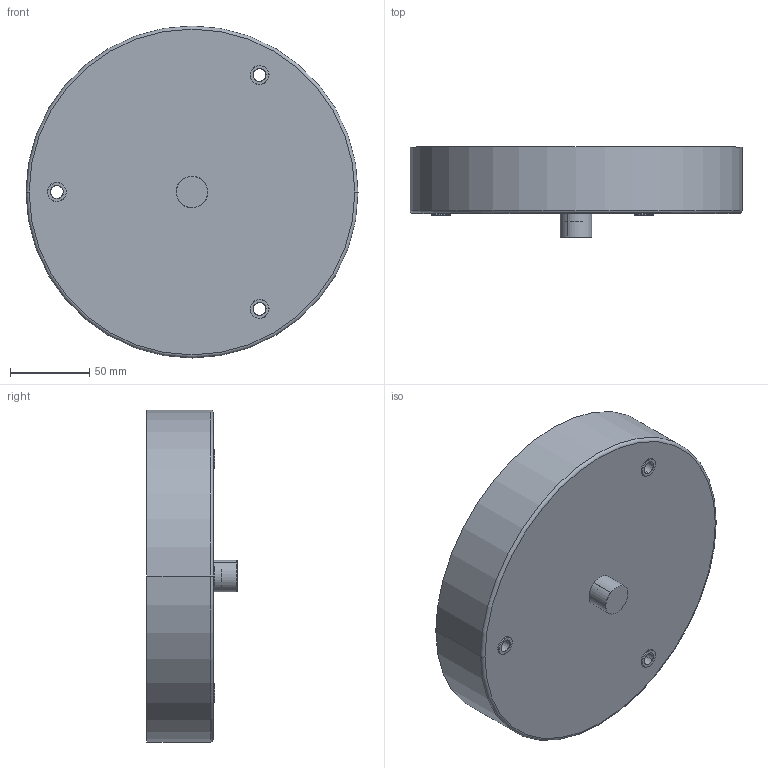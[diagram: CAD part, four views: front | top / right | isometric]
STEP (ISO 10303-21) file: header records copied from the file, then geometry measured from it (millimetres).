
FILE_DESCRIPTION (( 'STEP AP203' ), '1' );
FILE_NAME ('ACCANOPYTO003XX REV.01-PER 3D.STEP', '2026-07-08T08:40:11', ( '' ), ( '' ), 'SwSTEP 2.0', 'SolidWorks 2026', '' );
FILE_SCHEMA (( 'CONFIG_CONTROL_DESIGN' ));
Length unit declared in the file: millimetre
Products named in the file (1): ACCANOPYTO003XX REV.01-PER 3D
Bounding box: 210 x 57 x 210 mm (x, y, z)
Surface area: 125949.2 mm2 (no closed solid volume)
Topology: 0 solids, 6 shells, 75 faces, 164 edges, 100 vertices
Faces by surface type: cylinder 34, cone 26, plane 11, torus 4
Entity records: 2156 total; most frequent: DIRECTION 420, CARTESIAN_POINT 340, ORIENTED_EDGE 310, AXIS2_PLACEMENT_3D 180, EDGE_CURVE 164, CIRCLE 104, VERTEX_POINT 100, EDGE_LOOP 91
